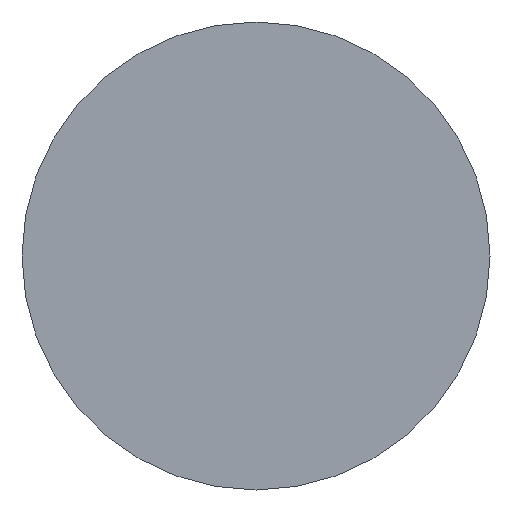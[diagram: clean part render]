
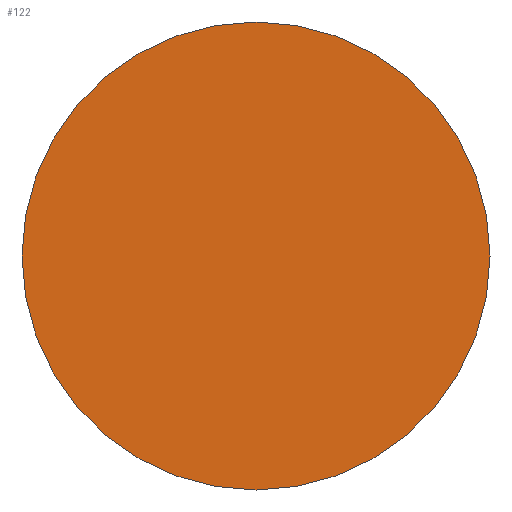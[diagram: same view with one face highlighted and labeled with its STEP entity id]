
A CAD part, front view. The second image highlights one B-rep face of the part: STEP entity #122.
In plain terms, the highlighted planar face has unit normal (0, -1, 0).
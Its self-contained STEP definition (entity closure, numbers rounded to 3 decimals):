
#18=PLANE('',#165);
#35=FACE_OUTER_BOUND('',#44,.T.);
#44=EDGE_LOOP('',(#108));
#55=CIRCLE('',#160,67.5);
#66=VERTEX_POINT('',#236);
#79=EDGE_CURVE('',#66,#66,#55,.T.);
#108=ORIENTED_EDGE('',*,*,#79,.F.);
#122=ADVANCED_FACE('',(#35),#18,.T.);
#160=AXIS2_PLACEMENT_3D('',#238,#195,#196);
#165=AXIS2_PLACEMENT_3D('',#244,#205,#206);
#195=DIRECTION('center_axis',(0.,1.,0.));
#196=DIRECTION('ref_axis',(1.,0.,0.));
#205=DIRECTION('center_axis',(0.,-1.,0.));
#206=DIRECTION('ref_axis',(0.,0.,-1.));
#236=CARTESIAN_POINT('',(67.5,0.,0.));
#238=CARTESIAN_POINT('Origin',(0.,0.,0.));
#244=CARTESIAN_POINT('Origin',(-67.5,0.,0.));
